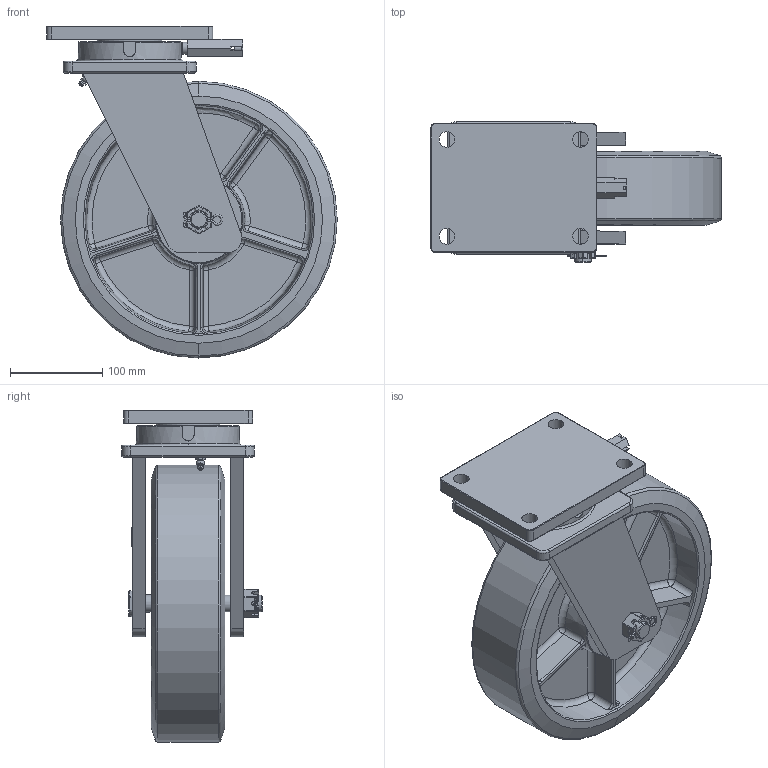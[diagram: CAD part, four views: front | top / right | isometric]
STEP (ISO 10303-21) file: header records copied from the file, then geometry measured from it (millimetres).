
FILE_DESCRIPTION(/* description */ (''),/* implementation_level */ '2;1');
FILE_NAME(/* name */ '40A21_12_F.stp',/* time_stamp */ '2022-08-29T10:10:10+08:00',/* author */ (''),/* organization */ (''),/* preprocessor_version */ 'ST-DEVELOPER v14',/* originating_system */ 'SIEMENS PLM Software NX 8.0',/* authorisation */ '');
FILE_SCHEMA (('AUTOMOTIVE_DESIGN { 1 0 10303 214 3 1 1 1 }'));
Length unit declared in the file: millimetre
Products named in the file (1): 40A21_12_F
Bounding box: 315 x 152.5 x 360 mm (x, y, z)
Volume: 4070071.7 mm3; surface area: 530577 mm2
Topology: 1 solids, 2 shells, 779 faces, 2032 edges, 1255 vertices
Faces by surface type: plane 353, cylinder 229, torus 58, bspline 57, cone 42, sphere 36, revolution 4
Full cylindrical faces by diameter (mm): 4 x1, 12.5 x1, 13 x1
Entity records: 27962 total; most frequent: CARTESIAN_POINT 10133, ORIENTED_EDGE 3972, DIRECTION 3354, EDGE_CURVE 1986, AXIS2_PLACEMENT_3D 1280, VERTEX_POINT 1255, EDGE_LOOP 843, LINE 790
